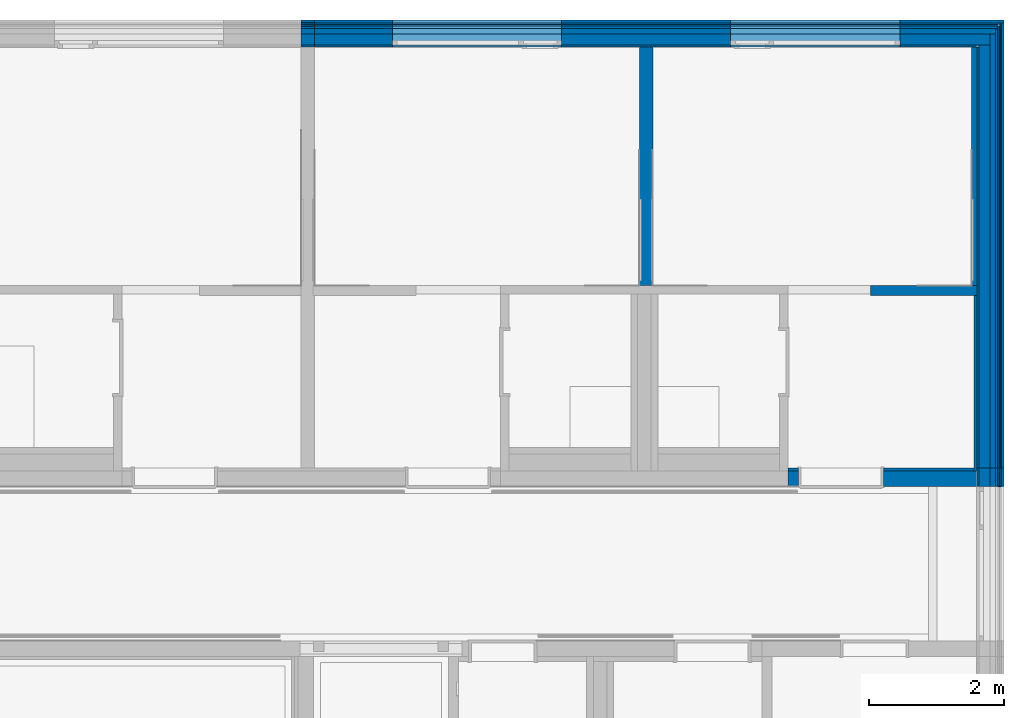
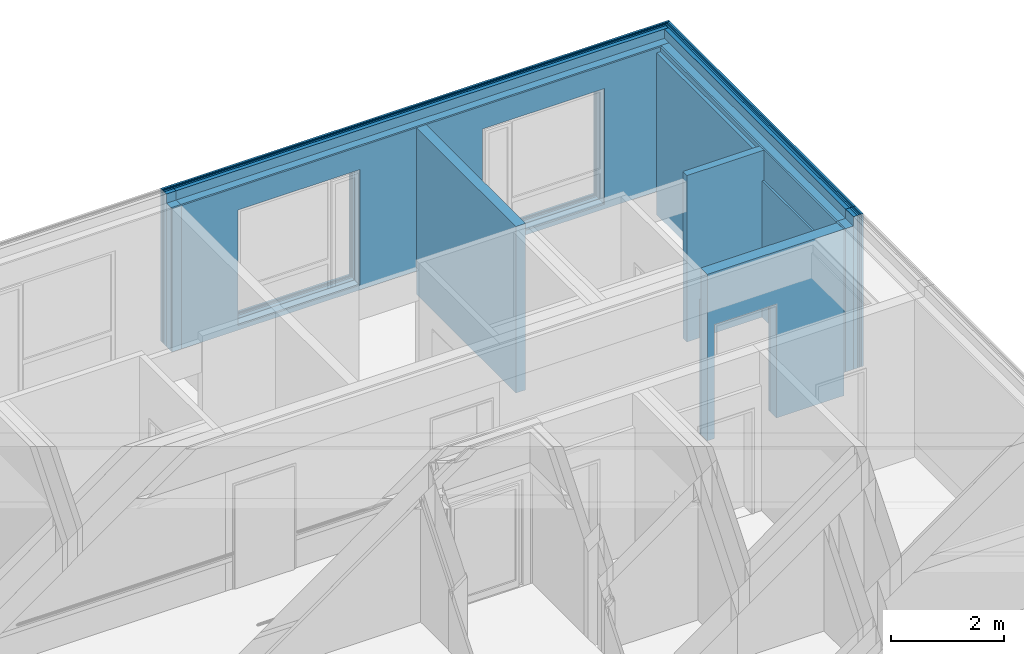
# One storey, part 61 of 207: 34 walls, 16 openings.
"""IFC4 building model written with IfcOpenShell, lengths in metres."""

from ifc_helpers import new_model, entity, si_unit, converted_unit, derived_unit, frame, frame_2d, origin, origin_with_axes, place, context, subcontext, project, spatial, polyline, rectangle, outline, extrude, material, element, save


model = new_model("IFC4")

# Units and contexts
model_context = context("Model", 3, precision=1e-05, world=origin())
body_context = subcontext(model_context, "Body", "Model", "MODEL_VIEW")
ifc_project = project(units=[si_unit("LENGTHUNIT", "METRE"), si_unit("AREAUNIT", "SQUARE_METRE"), si_unit("VOLUMEUNIT", "CUBIC_METRE"), si_unit("MASSUNIT", "GRAM", prefix="KILO"), converted_unit("PLANEANGLEUNIT", "DEGREE", entity("IfcPlaneAngleMeasure", 0.0174532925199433), si_unit("PLANEANGLEUNIT", "RADIAN"), dimensions=[0, 0, 0, 0, 0, 0, 0]), derived_unit("THERMALTRANSMITTANCEUNIT", [(si_unit("POWERUNIT", "WATT"), 1), (si_unit("THERMODYNAMICTEMPERATUREUNIT", "KELVIN"), -1), (si_unit("LENGTHUNIT", "METRE"), -2)]), derived_unit("VOLUMETRICFLOWRATEUNIT", [(si_unit("LENGTHUNIT", "METRE"), 3), (converted_unit("TIMEUNIT", "hour", entity("IfcTimeMeasure", 3600.0), si_unit("TIMEUNIT", "SECOND"), dimensions=[0, 0, 1, 0, 0, 0, 0]), -1), (si_unit("LENGTHUNIT", "METRE"), -1)])], contexts=[model_context])

# Site, building, storey
site_placement = place(None, origin())
site = spatial("IfcSite", under=ifc_project, at=site_placement, Name="Psychiatrie Neubau Wunstorf", CompositionType="ELEMENT")
building_placement = place(site_placement, origin())
building = spatial("IfcBuilding", under=site, at=building_placement, Name="Neubau H2 Stationsgebäude", CompositionType="ELEMENT")
storey_placement = place(building_placement, frame((0.0, 0.0, -0.2)))
storey = spatial("IfcBuildingStorey", under=building, at=storey_placement, Name="H2 Ebene 0", CompositionType="ELEMENT", Elevation=-0.2)

# Walls
ifc_material_1 = material(Name="WA-LB")
wall_1_placement = place(storey_placement, frame((95.9, 31.614, 0.5)))
element("IfcWall", 1, at=wall_1_placement, inside=storey, material=ifc_material_1, context=body_context, shape_type="SweptSolid", body=[
    extrude(rectangle(XDim=0.2, YDim=0.036, at=frame_2d((0.1, 0.018), x_axis=(1.0, 0.0))), origin_with_axes(), (0.0, 0.0, 1.0), 3.1),
])
ifc_material_2 = material(Name="WA-HD")
wall_2_placement = place(storey_placement, frame((95.9, 31.65, 0.5)))
element("IfcWall", 2, at=wall_2_placement, inside=storey, material=ifc_material_2, context=body_context, shape_type="SweptSolid", body=[
    extrude(rectangle(XDim=0.2, YDim=0.16, at=frame_2d((0.1, 0.08), x_axis=(1.0, 0.0))), origin_with_axes(), (0.0, 0.0, 1.0), 3.1),
])
ifc_material_3 = material(Name="WA-DL")
wall_3_placement = place(storey_placement, frame((95.9, 31.81, 0.5)))
element("IfcWall", 3, at=wall_3_placement, inside=storey, material=ifc_material_3, context=body_context, shape_type="SweptSolid", body=[
    extrude(rectangle(XDim=0.2, YDim=0.08, at=frame_2d((0.1, 0.04), x_axis=(1.0, 0.0))), origin_with_axes(), (0.0, 0.0, 1.0), 3.3),
])
ifc_material_4 = material(Name="WA-TP")
wall_4_placement = place(storey_placement, frame((95.9, 31.89, 0.5)))
element("IfcWall", 4, at=wall_4_placement, inside=storey, material=ifc_material_4, context=body_context, shape_type="SweptSolid", body=[
    extrude(rectangle(XDim=0.2, YDim=0.036, at=frame_2d((0.1, 0.018), x_axis=(1.0, 0.0))), origin_with_axes(), (0.0, 0.0, 1.0), 3.3),
])
ifc_material_5 = material(Name="WA-KL")
wall_5_placement = place(storey_placement, frame((95.9, 31.926, 0.5)))
element("IfcWall", 5, at=wall_5_placement, inside=storey, material=ifc_material_5, context=body_context, shape_type="SweptSolid", body=[
    extrude(rectangle(XDim=0.2, YDim=0.024, at=frame_2d((0.1, 0.012), x_axis=(1.0, 0.0))), origin_with_axes(), (0.0, 0.0, 1.0), 3.3),
])
ifc_material_6 = material(Name="WA-TL")
wall_6_placement = place(storey_placement, frame((95.9, 31.95, 0.5)))
element("IfcWall", 6, at=wall_6_placement, inside=storey, material=ifc_material_6, context=body_context, shape_type="SweptSolid", body=[
    extrude(rectangle(XDim=0.2, YDim=0.024, at=frame_2d((0.1, 0.012), x_axis=(1.0, 0.0))), origin_with_axes(), (0.0, 0.0, 1.0), 3.3),
])
ifc_material_7 = material(Name="WA-HS")
wall_7_placement = place(storey_placement, frame((95.9, 31.974, 0.5)))
element("IfcWall", 7, at=wall_7_placement, inside=storey, material=ifc_material_7, context=body_context, shape_type="SweptSolid", body=[
    extrude(rectangle(XDim=0.2, YDim=0.042, at=frame_2d((0.1, 0.021), x_axis=(1.0, 0.0))), origin_with_axes(), (0.0, 0.0, 1.0), 3.3),
])
ifc_material_8 = material(Name="WA-LB")
wall_8_placement = place(storey_placement, frame((105.889, 25.3895, 0.5), z_axis=(0.0, 0.0, 1.0), x_axis=(0.0, -1.0, 0.0)))
element("IfcWall", 8, at=wall_8_placement, inside=storey, material=ifc_material_8, context=body_context, shape_type="SweptSolid", body=[
    extrude(rectangle(XDim=0.272, YDim=0.036, at=frame_2d((0.136, 0.018), x_axis=(1.0, 0.0))), origin_with_axes(), (0.0, 0.0, 1.0), 3.1),
])
ifc_material_9 = material(Name="WA-HD")
wall_9_placement = place(storey_placement, frame((105.925, 25.3895, 0.5), z_axis=(0.0, 0.0, 1.0), x_axis=(0.0, -1.0, 0.0)))
element("IfcWall", 9, at=wall_9_placement, inside=storey, material=ifc_material_9, context=body_context, shape_type="SweptSolid", body=[
    extrude(rectangle(XDim=0.272, YDim=0.16, at=frame_2d((0.136, 0.08), x_axis=(1.0, 0.0))), origin_with_axes(), (0.0, 0.0, 1.0), 3.1),
])
ifc_material_10 = material(Name="WA-DL")
wall_10_placement = place(storey_placement, frame((106.085, 25.3895, 0.5), z_axis=(0.0, 0.0, 1.0), x_axis=(0.0, -1.0, 0.0)))
element("IfcWall", 10, at=wall_10_placement, inside=storey, material=ifc_material_10, context=body_context, shape_type="SweptSolid", body=[
    extrude(rectangle(XDim=0.272, YDim=0.08, at=frame_2d((0.136, 0.04), x_axis=(1.0, 0.0))), origin_with_axes(), (0.0, 0.0, 1.0), 3.3),
])
ifc_material_11 = material(Name="WA-TP")
wall_11_placement = place(storey_placement, frame((106.165, 25.3895, 0.5), z_axis=(0.0, 0.0, 1.0), x_axis=(0.0, -1.0, 0.0)))
element("IfcWall", 11, at=wall_11_placement, inside=storey, material=ifc_material_11, context=body_context, shape_type="SweptSolid", body=[
    extrude(rectangle(XDim=0.272, YDim=0.036, at=frame_2d((0.136, 0.018), x_axis=(1.0, 0.0))), origin_with_axes(), (0.0, 0.0, 1.0), 3.3),
])
ifc_material_12 = material(Name="WA-KL")
wall_12_placement = place(storey_placement, frame((106.201, 25.3895, 0.5), z_axis=(0.0, 0.0, 1.0), x_axis=(0.0, -1.0, 0.0)))
element("IfcWall", 12, at=wall_12_placement, inside=storey, material=ifc_material_12, context=body_context, shape_type="SweptSolid", body=[
    extrude(rectangle(XDim=0.272, YDim=0.024, at=frame_2d((0.136, 0.012), x_axis=(1.0, 0.0))), origin_with_axes(), (0.0, 0.0, 1.0), 3.3),
])
ifc_material_13 = material(Name="WA-TL")
wall_13_placement = place(storey_placement, frame((106.225, 25.3895, 0.5), z_axis=(0.0, 0.0, 1.0), x_axis=(0.0, -1.0, 0.0)))
element("IfcWall", 13, at=wall_13_placement, inside=storey, material=ifc_material_13, context=body_context, shape_type="SweptSolid", body=[
    extrude(rectangle(XDim=0.272, YDim=0.024, at=frame_2d((0.136, 0.012), x_axis=(1.0, 0.0))), origin_with_axes(), (0.0, 0.0, 1.0), 3.3),
])
ifc_material_14 = material(Name="WA-HS")
wall_14_placement = place(storey_placement, frame((106.249, 25.3895, 0.5), z_axis=(0.0, 0.0, 1.0), x_axis=(0.0, -1.0, 0.0)))
element("IfcWall", 14, at=wall_14_placement, inside=storey, material=ifc_material_14, context=body_context, shape_type="SweptSolid", body=[
    extrude(rectangle(XDim=0.272, YDim=0.042, at=frame_2d((0.136, 0.021), x_axis=(1.0, 0.0))), origin_with_axes(), (0.0, 0.0, 1.0), 3.3),
])
ifc_material_15 = material(Name="WA-LB")
wall_15_placement = place(storey_placement, frame((105.889, 31.614, 0.5), z_axis=(0.0, 0.0, 1.0), x_axis=(0.0, -1.0, 0.0)))
element("IfcWall", 15, at=wall_15_placement, inside=storey, material=ifc_material_15, context=body_context, shape_type="SweptSolid", body=[
    extrude(rectangle(XDim=6.22449999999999, YDim=0.036, at=frame_2d((3.11224999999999, 0.018), x_axis=(1.0, 0.0))), origin_with_axes(), (0.0, 0.0, 1.0), 3.1),
])
ifc_material_16 = material(Name="WA-HD")
wall_16_placement = place(storey_placement, frame((105.925, 31.65, 0.5), z_axis=(0.0, 0.0, 1.0), x_axis=(0.0, -1.0, 0.0)))
element("IfcWall", 16, at=wall_16_placement, inside=storey, material=ifc_material_16, context=body_context, shape_type="SweptSolid", body=[
    extrude(rectangle(XDim=6.26049999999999, YDim=0.16, at=frame_2d((3.13024999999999, 0.08), x_axis=(1.0, 0.0))), origin_with_axes(), (0.0, 0.0, 1.0), 3.1),
])
ifc_material_17 = material(Name="WA-DL")
wall_17_placement = place(storey_placement, frame((106.085, 31.81, 0.5), z_axis=(0.0, 0.0, 1.0), x_axis=(0.0, -1.0, 0.0)))
element("IfcWall", 17, at=wall_17_placement, inside=storey, material=ifc_material_17, context=body_context, shape_type="SweptSolid", body=[
    extrude(rectangle(XDim=6.42049999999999, YDim=0.08, at=frame_2d((3.21024999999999, 0.04), x_axis=(1.0, 0.0))), origin_with_axes(), (0.0, 0.0, 1.0), 3.3),
])
ifc_material_18 = material(Name="WA-TP")
wall_18_placement = place(storey_placement, frame((106.165, 31.89, 0.5), z_axis=(0.0, 0.0, 1.0), x_axis=(0.0, -1.0, 0.0)))
element("IfcWall", 18, at=wall_18_placement, inside=storey, material=ifc_material_18, context=body_context, shape_type="SweptSolid", body=[
    extrude(rectangle(XDim=6.50049999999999, YDim=0.036, at=frame_2d((3.25024999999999, 0.018), x_axis=(1.0, 0.0))), origin_with_axes(), (0.0, 0.0, 1.0), 3.3),
])
ifc_material_19 = material(Name="WA-KL")
wall_19_placement = place(storey_placement, frame((106.201, 31.926, 0.5), z_axis=(0.0, 0.0, 1.0), x_axis=(0.0, -1.0, 0.0)))
element("IfcWall", 19, at=wall_19_placement, inside=storey, material=ifc_material_19, context=body_context, shape_type="SweptSolid", body=[
    extrude(rectangle(XDim=6.53649999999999, YDim=0.024, at=frame_2d((3.26824999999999, 0.012), x_axis=(1.0, 0.0))), origin_with_axes(), (0.0, 0.0, 1.0), 3.3),
])
ifc_material_20 = material(Name="WA-TL")
wall_20_placement = place(storey_placement, frame((106.225, 31.95, 0.5), z_axis=(0.0, 0.0, 1.0), x_axis=(0.0, -1.0, 0.0)))
element("IfcWall", 20, at=wall_20_placement, inside=storey, material=ifc_material_20, context=body_context, shape_type="SweptSolid", body=[
    extrude(rectangle(XDim=6.56049999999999, YDim=0.024, at=frame_2d((3.28024999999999, 0.012), x_axis=(1.0, 0.0))), origin_with_axes(), (0.0, 0.0, 1.0), 3.3),
])
ifc_material_21 = material(Name="WA-HS")
wall_21_placement = place(storey_placement, frame((106.249, 31.974, 0.5), z_axis=(0.0, 0.0, 1.0), x_axis=(0.0, -1.0, 0.0)))
element("IfcWall", 21, at=wall_21_placement, inside=storey, material=ifc_material_21, context=body_context, shape_type="SweptSolid", body=[
    extrude(rectangle(XDim=6.58449999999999, YDim=0.042, at=frame_2d((3.29224999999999, 0.021), x_axis=(1.0, 0.0))), origin_with_axes(), (0.0, 0.0, 1.0), 3.3),
])

# Wall, openings
ifc_material_22 = material(Name="WA-LB")
wall_22_placement = place(storey_placement, frame((96.1, 31.614, 0.5)))
wall_22 = element("IfcWall", 22, at=wall_22_placement, inside=storey, material=ifc_material_22, context=body_context, shape_type="SweptSolid", body=[
    extrude(rectangle(XDim=9.825, YDim=0.036, at=frame_2d((4.9125, 0.018), x_axis=(1.0, 0.0))), origin_with_axes(), (0.0, 0.0, 1.0), 3.1),
])
opening_1_placement = place(wall_22_placement, frame((6.15, 0.0, 0.1), z_axis=(0.0, 1.0, 0.0), x_axis=(0.0, 0.0, 1.0)))
element("IfcOpeningElement", 23, at=opening_1_placement, cuts=wall_22, Name="Fensteröffnung", ObjectType="Opening", context=body_context, shape_type="SweptSolid", body=[
    extrude(outline(polyline([(2.5, 2.5), (2.5, 0.0), (0.0, 0.0), (0.0, 2.5), (2.5, 2.5)])), origin_with_axes(), (0.0, 0.0, 1.0), 0.036),
])
opening_2_placement = place(wall_22_placement, frame((1.15, 0.0, 0.1), z_axis=(0.0, 1.0, 0.0), x_axis=(0.0, 0.0, 1.0)))
element("IfcOpeningElement", 24, at=opening_2_placement, cuts=wall_22, Name="Fensteröffnung", ObjectType="Opening", context=body_context, shape_type="SweptSolid", body=[
    extrude(outline(polyline([(2.5, 2.5), (2.5, 0.0), (0.0, 0.0), (0.0, 2.5), (2.5, 2.5)])), origin_with_axes(), (0.0, 0.0, 1.0), 0.036),
])

ifc_material_23 = material(Name="WA-HD")
wall_23_placement = place(storey_placement, frame((96.1, 31.65, 0.5)))
wall_23 = element("IfcWall", 25, at=wall_23_placement, inside=storey, material=ifc_material_23, context=body_context, shape_type="SweptSolid", body=[
    extrude(rectangle(XDim=9.985, YDim=0.16, at=frame_2d((4.9925, 0.08), x_axis=(1.0, 0.0))), origin_with_axes(), (0.0, 0.0, 1.0), 3.1),
])
opening_3_placement = place(wall_23_placement, frame((6.15, 0.0, 0.1), z_axis=(0.0, 1.0, 0.0), x_axis=(0.0, 0.0, 1.0)))
element("IfcOpeningElement", 26, at=opening_3_placement, cuts=wall_23, Name="Fensteröffnung", ObjectType="Opening", context=body_context, shape_type="SweptSolid", body=[
    extrude(outline(polyline([(2.5, 2.5), (2.5, 0.0), (0.0, 0.0), (0.0, 2.5), (2.5, 2.5)])), origin_with_axes(), (0.0, 0.0, 1.0), 0.16),
])
opening_4_placement = place(wall_23_placement, frame((1.15, 0.0, 0.1), z_axis=(0.0, 1.0, 0.0), x_axis=(0.0, 0.0, 1.0)))
element("IfcOpeningElement", 27, at=opening_4_placement, cuts=wall_23, Name="Fensteröffnung", ObjectType="Opening", context=body_context, shape_type="SweptSolid", body=[
    extrude(outline(polyline([(2.5, 2.5), (2.5, 0.0), (0.0, 0.0), (0.0, 2.5), (2.5, 2.5)])), origin_with_axes(), (0.0, 0.0, 1.0), 0.16),
])

ifc_material_24 = material(Name="WA-DL")
wall_24_placement = place(storey_placement, frame((96.1, 31.81, 0.5)))
wall_24 = element("IfcWall", 28, at=wall_24_placement, inside=storey, material=ifc_material_24, context=body_context, shape_type="SweptSolid", body=[
    extrude(rectangle(XDim=10.065, YDim=0.08, at=frame_2d((5.0325, 0.04), x_axis=(1.0, 0.0))), origin_with_axes(), (0.0, 0.0, 1.0), 3.3),
])
opening_5_placement = place(wall_24_placement, frame((6.15, 0.0, 0.1), z_axis=(0.0, 1.0, 0.0), x_axis=(0.0, 0.0, 1.0)))
element("IfcOpeningElement", 29, at=opening_5_placement, cuts=wall_24, Name="Fensteröffnung", ObjectType="Opening", context=body_context, shape_type="SweptSolid", body=[
    extrude(outline(polyline([(2.5, 2.5), (2.5, 0.0), (0.0, 0.0), (0.0, 2.5), (2.5, 2.5)])), origin_with_axes(), (0.0, 0.0, 1.0), 0.08),
])
opening_6_placement = place(wall_24_placement, frame((1.15, 0.0, 0.1), z_axis=(0.0, 1.0, 0.0), x_axis=(0.0, 0.0, 1.0)))
element("IfcOpeningElement", 30, at=opening_6_placement, cuts=wall_24, Name="Fensteröffnung", ObjectType="Opening", context=body_context, shape_type="SweptSolid", body=[
    extrude(outline(polyline([(2.5, 2.5), (2.5, 0.0), (0.0, 0.0), (0.0, 2.5), (2.5, 2.5)])), origin_with_axes(), (0.0, 0.0, 1.0), 0.08),
])

ifc_material_25 = material(Name="WA-TP")
wall_25_placement = place(storey_placement, frame((96.1, 31.89, 0.5)))
wall_25 = element("IfcWall", 31, at=wall_25_placement, inside=storey, material=ifc_material_25, context=body_context, shape_type="SweptSolid", body=[
    extrude(rectangle(XDim=10.101, YDim=0.036, at=frame_2d((5.0505, 0.018), x_axis=(1.0, 0.0))), origin_with_axes(), (0.0, 0.0, 1.0), 3.3),
])
opening_7_placement = place(wall_25_placement, frame((6.15, 0.0, 0.1), z_axis=(0.0, 1.0, 0.0), x_axis=(0.0, 0.0, 1.0)))
element("IfcOpeningElement", 32, at=opening_7_placement, cuts=wall_25, Name="Fensteröffnung", ObjectType="Opening", context=body_context, shape_type="SweptSolid", body=[
    extrude(outline(polyline([(2.5, 2.5), (2.5, 0.0), (0.0, 0.0), (0.0, 2.5), (2.5, 2.5)])), origin_with_axes(), (0.0, 0.0, 1.0), 0.036),
])
opening_8_placement = place(wall_25_placement, frame((1.15, 0.0, 0.1), z_axis=(0.0, 1.0, 0.0), x_axis=(0.0, 0.0, 1.0)))
element("IfcOpeningElement", 33, at=opening_8_placement, cuts=wall_25, Name="Fensteröffnung", ObjectType="Opening", context=body_context, shape_type="SweptSolid", body=[
    extrude(outline(polyline([(2.5, 2.5), (2.5, 0.0), (0.0, 0.0), (0.0, 2.5), (2.5, 2.5)])), origin_with_axes(), (0.0, 0.0, 1.0), 0.036),
])

ifc_material_26 = material(Name="WA-KL")
wall_26_placement = place(storey_placement, frame((96.1, 31.926, 0.5)))
wall_26 = element("IfcWall", 34, at=wall_26_placement, inside=storey, material=ifc_material_26, context=body_context, shape_type="SweptSolid", body=[
    extrude(rectangle(XDim=10.125, YDim=0.024, at=frame_2d((5.0625, 0.012), x_axis=(1.0, 0.0))), origin_with_axes(), (0.0, 0.0, 1.0), 3.3),
])
opening_9_placement = place(wall_26_placement, frame((6.15, 0.0, 0.1), z_axis=(0.0, 1.0, 0.0), x_axis=(0.0, 0.0, 1.0)))
element("IfcOpeningElement", 35, at=opening_9_placement, cuts=wall_26, Name="Fensteröffnung", ObjectType="Opening", context=body_context, shape_type="SweptSolid", body=[
    extrude(outline(polyline([(2.5, 2.5), (2.5, 0.0), (0.0, 0.0), (0.0, 2.5), (2.5, 2.5)])), origin_with_axes(), (0.0, 0.0, 1.0), 0.024),
])
opening_10_placement = place(wall_26_placement, frame((1.15, 0.0, 0.1), z_axis=(0.0, 1.0, 0.0), x_axis=(0.0, 0.0, 1.0)))
element("IfcOpeningElement", 36, at=opening_10_placement, cuts=wall_26, Name="Fensteröffnung", ObjectType="Opening", context=body_context, shape_type="SweptSolid", body=[
    extrude(outline(polyline([(2.5, 2.5), (2.5, 0.0), (0.0, 0.0), (0.0, 2.5), (2.5, 2.5)])), origin_with_axes(), (0.0, 0.0, 1.0), 0.024),
])

ifc_material_27 = material(Name="WA-TL")
wall_27_placement = place(storey_placement, frame((96.1, 31.95, 0.5)))
wall_27 = element("IfcWall", 37, at=wall_27_placement, inside=storey, material=ifc_material_27, context=body_context, shape_type="SweptSolid", body=[
    extrude(rectangle(XDim=10.149, YDim=0.024, at=frame_2d((5.0745, 0.012), x_axis=(1.0, 0.0))), origin_with_axes(), (0.0, 0.0, 1.0), 3.3),
])
opening_11_placement = place(wall_27_placement, frame((6.15, 0.0, 0.1), z_axis=(0.0, 1.0, 0.0), x_axis=(0.0, 0.0, 1.0)))
element("IfcOpeningElement", 38, at=opening_11_placement, cuts=wall_27, Name="Fensteröffnung", ObjectType="Opening", context=body_context, shape_type="SweptSolid", body=[
    extrude(outline(polyline([(2.5, 2.5), (2.5, 0.0), (0.0, 0.0), (0.0, 2.5), (2.5, 2.5)])), origin_with_axes(), (0.0, 0.0, 1.0), 0.024),
])
opening_12_placement = place(wall_27_placement, frame((1.15, 0.0, 0.1), z_axis=(0.0, 1.0, 0.0), x_axis=(0.0, 0.0, 1.0)))
element("IfcOpeningElement", 39, at=opening_12_placement, cuts=wall_27, Name="Fensteröffnung", ObjectType="Opening", context=body_context, shape_type="SweptSolid", body=[
    extrude(outline(polyline([(2.5, 2.5), (2.5, 0.0), (0.0, 0.0), (0.0, 2.5), (2.5, 2.5)])), origin_with_axes(), (0.0, 0.0, 1.0), 0.024),
])

ifc_material_28 = material(Name="WA-HS")
wall_28_placement = place(storey_placement, frame((96.1, 31.974, 0.5)))
wall_28 = element("IfcWall", 40, at=wall_28_placement, inside=storey, material=ifc_material_28, context=body_context, shape_type="SweptSolid", body=[
    extrude(rectangle(XDim=10.191, YDim=0.042, at=frame_2d((5.0955, 0.021), x_axis=(1.0, 0.0))), origin_with_axes(), (0.0, 0.0, 1.0), 3.3),
])
opening_13_placement = place(wall_28_placement, frame((6.15, 0.0, 0.1), z_axis=(0.0, 1.0, 0.0), x_axis=(0.0, 0.0, 1.0)))
element("IfcOpeningElement", 41, at=opening_13_placement, cuts=wall_28, Name="Fensteröffnung", ObjectType="Opening", context=body_context, shape_type="SweptSolid", body=[
    extrude(outline(polyline([(2.5, 2.5), (2.5, 0.0), (0.0, 0.0), (0.0, 2.5), (2.5, 2.5)])), origin_with_axes(), (0.0, 0.0, 1.0), 0.042),
])
opening_14_placement = place(wall_28_placement, frame((1.15, 0.0, 0.1), z_axis=(0.0, 1.0, 0.0), x_axis=(0.0, 0.0, 1.0)))
element("IfcOpeningElement", 42, at=opening_14_placement, cuts=wall_28, Name="Fensteröffnung", ObjectType="Opening", context=body_context, shape_type="SweptSolid", body=[
    extrude(outline(polyline([(2.5, 2.5), (2.5, 0.0), (0.0, 0.0), (0.0, 2.5), (2.5, 2.5)])), origin_with_axes(), (0.0, 0.0, 1.0), 0.042),
])

# Walls
ifc_material_29 = material(Name="WI-LB")
wall_29_placement = place(storey_placement, frame((100.9, 31.614, 0.0), z_axis=(0.0, 0.0, 1.0), x_axis=(0.0, -1.0, 0.0)))
element("IfcWall", 43, at=wall_29_placement, inside=storey, material=ifc_material_29, context=body_context, shape_type="SweptSolid", body=[
    extrude(rectangle(XDim=3.52449999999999, YDim=0.2, at=frame_2d((1.76225, 0.1), x_axis=(1.0, 0.0))), origin_with_axes(), (0.0, 0.0, 1.0), 3.6),
])
ifc_material_30 = material(Name="WI-LB")
wall_30_placement = place(storey_placement, frame((104.314, 27.9395, 0.0)))
element("IfcWall", 44, at=wall_30_placement, inside=storey, material=ifc_material_30, context=body_context, shape_type="SweptSolid", body=[
    extrude(rectangle(XDim=1.575, YDim=0.15, at=frame_2d((0.7875, 0.075), x_axis=(1.0, 0.0))), origin_with_axes(), (0.0, 0.0, 1.0), 3.6),
])

# Wall, opening
ifc_material_31 = material(Name="WI-HW 60")
wall_31_placement = place(storey_placement, frame((103.1, 25.1175, 0.0)))
wall_31 = element("IfcWall", 45, at=wall_31_placement, inside=storey, material=ifc_material_31, context=body_context, shape_type="SweptSolid", body=[
    extrude(rectangle(XDim=2.78900000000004, YDim=0.232, at=frame_2d((1.39450000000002, 0.116), x_axis=(1.0, 0.0))), origin_with_axes(), (0.0, 0.0, 1.0), 3.6),
])
opening_15_placement = place(wall_31_placement, frame((0.150000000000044, 0.0, 0.0), z_axis=(0.0, 1.0, 0.0), x_axis=(0.0, 0.0, 1.0)))
element("IfcOpeningElement", 46, at=opening_15_placement, cuts=wall_31, Name="Türöffnung", ObjectType="Opening", context=body_context, shape_type="SweptSolid", body=[
    extrude(outline(polyline([(2.46, 1.26), (2.46, 0.0), (0.0, 0.0), (0.0, 1.26), (2.46, 1.26)])), origin_with_axes(), (0.0, 0.0, 1.0), 0.232),
])

ifc_material_32 = material(Name="WI-LB")
wall_32_placement = place(storey_placement, frame((103.1, 25.3495, 0.0)))
wall_32 = element("IfcWall", 47, at=wall_32_placement, inside=storey, material=ifc_material_32, context=body_context, shape_type="SweptSolid", body=[
    extrude(rectangle(XDim=2.749, YDim=0.04, at=frame_2d((1.3745, 0.02), x_axis=(1.0, 0.0))), origin_with_axes(), (0.0, 0.0, 1.0), 2.9),
])
opening_16_placement = place(wall_32_placement, frame((0.15, 0.0, 0.0), z_axis=(0.0, 1.0, 0.0), x_axis=(0.0, 0.0, 1.0)))
element("IfcOpeningElement", 48, at=opening_16_placement, cuts=wall_32, Name="Türöffnung", ObjectType="Opening", context=body_context, shape_type="SweptSolid", body=[
    extrude(outline(polyline([(2.46, 1.26), (2.46, 0.0), (0.0, 0.0), (0.0, 1.26), (2.46, 1.26)])), origin_with_axes(), (0.0, 0.0, 1.0), 0.04),
])

# Walls
ifc_material_33 = material(Name="WI-LB")
wall_33_placement = place(storey_placement, frame((105.889, 25.3495, 0.0), z_axis=(0.0, 0.0, 1.0), x_axis=(0.0, 1.0, 0.0)))
element("IfcWall", 49, at=wall_33_placement, inside=storey, material=ifc_material_33, context=body_context, shape_type="SweptSolid", body=[
    extrude(rectangle(XDim=2.59000000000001, YDim=0.04, at=frame_2d((1.295, 0.02), x_axis=(1.0, 0.0))), origin_with_axes(), (0.0, 0.0, 1.0), 2.95),
])
ifc_material_34 = material(Name="WI-LB")
wall_34_placement = place(storey_placement, frame((105.814, 31.614, 0.0), z_axis=(0.0, 0.0, 1.0), x_axis=(0.0, -1.0, 0.0)))
element("IfcWall", 50, at=wall_34_placement, inside=storey, material=ifc_material_34, context=body_context, shape_type="SweptSolid", body=[
    extrude(rectangle(XDim=3.52449999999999, YDim=0.075, at=frame_2d((1.76225, 0.0375), x_axis=(1.0, 0.0))), origin_with_axes(), (0.0, 0.0, 1.0), 3.5),
])

save(model, "model.ifc")
